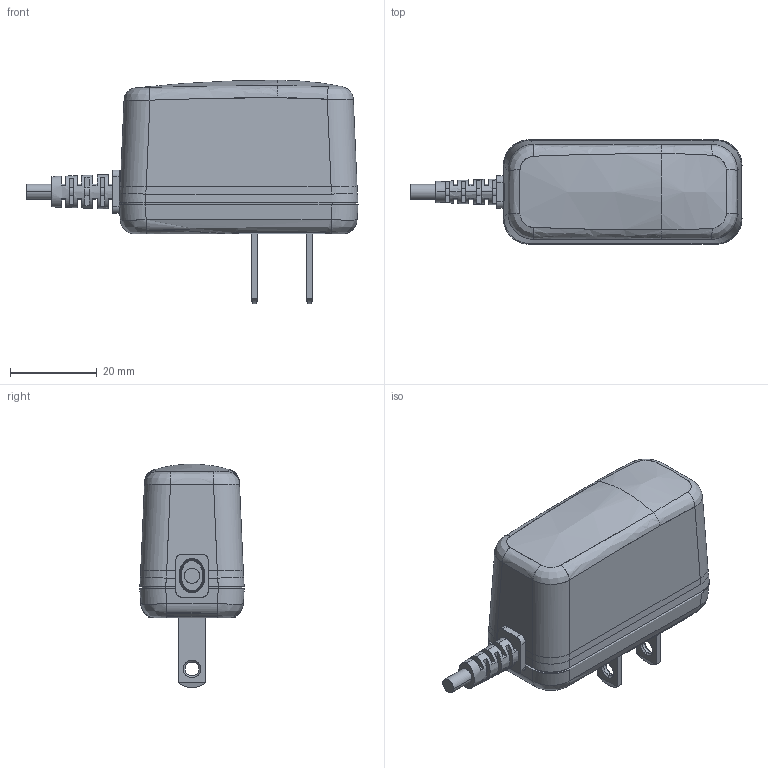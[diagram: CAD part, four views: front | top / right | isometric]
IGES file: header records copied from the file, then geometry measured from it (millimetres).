
Start section: SolidWorks IGES file using analytic representation for surfaces
Global section: file name: C:\Users\ksmith\OneDrive - XP Power\Desktop\VEL05\VEL05-US-UB.IGS; native system: SolidWorks 2022; preprocessor: SolidWorks 2022; author: ksmith; date: 220526.101850; units: inch
Bounding box: 76.65 x 24.1 x 51.58 mm (x, y, z)
Surface area: 17943.7 mm2 (no closed solid volume)
Topology: 0 solids, 0 shells, 1232 faces, 9475 edges, 9470 vertices
Faces by surface type: bspline 841, revolution 391
